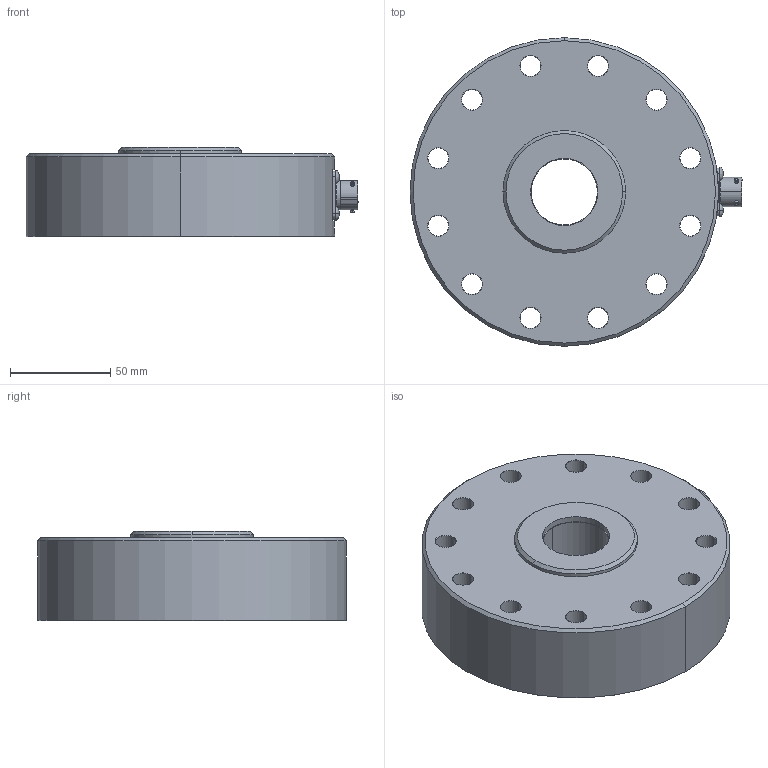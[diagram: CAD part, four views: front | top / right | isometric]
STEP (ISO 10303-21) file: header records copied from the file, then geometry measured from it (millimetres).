
FILE_DESCRIPTION (( 'STEP AP203' ), '1' );
FILE_NAME ('Interface 1220-100KN.STEP', '2011-06-07T17:50:31', ( ' ' ), ( '' ), 'SwSTEP 2.0', 'SolidWorks 2002349', '' );
FILE_SCHEMA (( 'CONFIG_CONTROL_DESIGN' ));
Length unit declared in the file: inch
Products named in the file (1): Interface 1220-100KN
Bounding box: 165.66 x 153.95 x 44.45 mm (x, y, z)
Volume: 691325.2 mm3; surface area: 76175.4 mm2
Topology: 1 solids, 1 shells, 238 faces, 557 edges, 352 vertices
Faces by surface type: cylinder 96, plane 79, cone 38, bspline 22, sphere 3
Entity records: 7577 total; most frequent: CARTESIAN_POINT 2130, DIRECTION 1118, ORIENTED_EDGE 1114, EDGE_CURVE 557, AXIS2_PLACEMENT_3D 446, VERTEX_POINT 352, EDGE_LOOP 295, FACE_OUTER_BOUND 238
